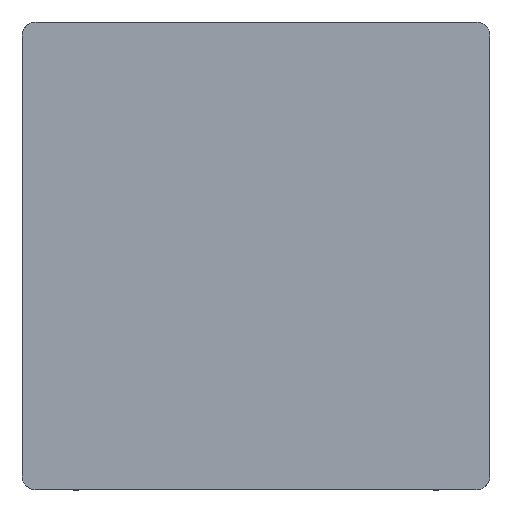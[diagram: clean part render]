
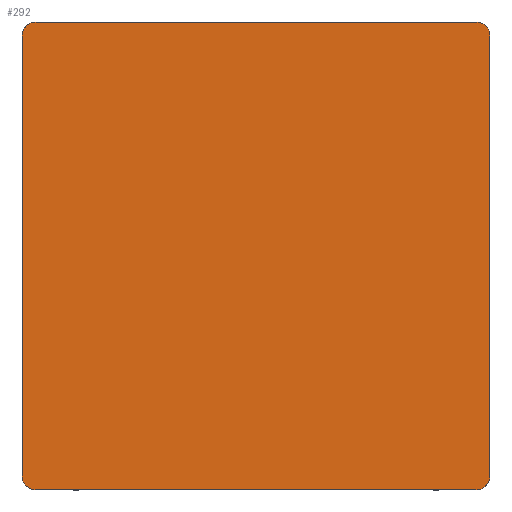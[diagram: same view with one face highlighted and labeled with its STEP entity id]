
A CAD part, top view. The second image highlights one B-rep face of the part: STEP entity #292.
In plain terms, the highlighted planar face has unit normal (0, 0, 1).
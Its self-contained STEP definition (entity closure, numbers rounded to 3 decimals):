
#292=ADVANCED_FACE($,(#522),#2910,.T.);
#522=FACE_OUTER_BOUND($,#776,.T.);
#776=EDGE_LOOP($,(#1796,#1797,#1798,#1799,#1800,#1801,#1802,#1803));
#1796=ORIENTED_EDGE($,*,*,#2347,.F.);
#1797=ORIENTED_EDGE($,*,*,#2338,.F.);
#1798=ORIENTED_EDGE($,*,*,#2346,.F.);
#1799=ORIENTED_EDGE($,*,*,#2337,.F.);
#1800=ORIENTED_EDGE($,*,*,#2345,.F.);
#1801=ORIENTED_EDGE($,*,*,#2336,.F.);
#1802=ORIENTED_EDGE($,*,*,#2344,.F.);
#1803=ORIENTED_EDGE($,*,*,#2339,.F.);
#2336=EDGE_CURVE($,#2677,#2676,#3274,.T.);
#2337=EDGE_CURVE($,#2679,#2678,#3275,.T.);
#2338=EDGE_CURVE($,#2681,#2680,#3276,.T.);
#2339=EDGE_CURVE($,#2683,#2682,#3277,.T.);
#2344=EDGE_CURVE($,#2682,#2677,#3426,.T.);
#2345=EDGE_CURVE($,#2676,#2679,#3427,.T.);
#2346=EDGE_CURVE($,#2678,#2681,#3428,.T.);
#2347=EDGE_CURVE($,#2680,#2683,#3429,.T.);
#2676=VERTEX_POINT($,#8886);
#2677=VERTEX_POINT($,#8887);
#2678=VERTEX_POINT($,#8888);
#2679=VERTEX_POINT($,#8889);
#2680=VERTEX_POINT($,#8890);
#2681=VERTEX_POINT($,#8891);
#2682=VERTEX_POINT($,#8892);
#2683=VERTEX_POINT($,#8893);
#2910=PLANE($,#3624);
#3274=B_SPLINE_CURVE_WITH_KNOTS($,1,(#8760,#8761),.UNSPECIFIED.,.F.,.F.,
(2,2),(30.,970.),.UNSPECIFIED.);
#3275=B_SPLINE_CURVE_WITH_KNOTS($,1,(#8762,#8763),.UNSPECIFIED.,.F.,.F.,
(2,2),(30.,970.),.UNSPECIFIED.);
#3276=B_SPLINE_CURVE_WITH_KNOTS($,1,(#8764,#8765),.UNSPECIFIED.,.F.,.F.,
(2,2),(30.,970.),.UNSPECIFIED.);
#3277=B_SPLINE_CURVE_WITH_KNOTS($,1,(#8766,#8767),.UNSPECIFIED.,.F.,.F.,
(2,2),(30.,970.),.UNSPECIFIED.);
#3426=(
BOUNDED_CURVE()
B_SPLINE_CURVE(2,(#8780,#8781,#8782),.UNSPECIFIED.,.F.,.F.)
B_SPLINE_CURVE_WITH_KNOTS((3,3),(-1.,0.),.UNSPECIFIED.)
CURVE()
GEOMETRIC_REPRESENTATION_ITEM()
RATIONAL_B_SPLINE_CURVE((1.,0.707,1.))
REPRESENTATION_ITEM($)
);
#3427=(
BOUNDED_CURVE()
B_SPLINE_CURVE(2,(#8783,#8784,#8785),.UNSPECIFIED.,.F.,.F.)
B_SPLINE_CURVE_WITH_KNOTS((3,3),(0.,1.),.UNSPECIFIED.)
CURVE()
GEOMETRIC_REPRESENTATION_ITEM()
RATIONAL_B_SPLINE_CURVE((1.,0.707,1.))
REPRESENTATION_ITEM($)
);
#3428=(
BOUNDED_CURVE()
B_SPLINE_CURVE(2,(#8786,#8787,#8788),.UNSPECIFIED.,.F.,.F.)
B_SPLINE_CURVE_WITH_KNOTS((3,3),(0.,1.),.UNSPECIFIED.)
CURVE()
GEOMETRIC_REPRESENTATION_ITEM()
RATIONAL_B_SPLINE_CURVE((1.,0.707,1.))
REPRESENTATION_ITEM($)
);
#3429=(
BOUNDED_CURVE()
B_SPLINE_CURVE(2,(#8789,#8790,#8791),.UNSPECIFIED.,.F.,.F.)
B_SPLINE_CURVE_WITH_KNOTS((3,3),(0.,1.),.UNSPECIFIED.)
CURVE()
GEOMETRIC_REPRESENTATION_ITEM()
RATIONAL_B_SPLINE_CURVE((1.,0.707,1.))
REPRESENTATION_ITEM($)
);
#3624=AXIS2_PLACEMENT_3D($,#8826,#3729,$);
#3729=DIRECTION($,(0.,0.,1.));
#8760=CARTESIAN_POINT($,(0.,30.,304.));
#8761=CARTESIAN_POINT($,(0.,970.,304.));
#8762=CARTESIAN_POINT($,(30.,1000.,304.));
#8763=CARTESIAN_POINT($,(970.,1000.,304.));
#8764=CARTESIAN_POINT($,(1000.,970.,304.));
#8765=CARTESIAN_POINT($,(1000.,30.,304.));
#8766=CARTESIAN_POINT($,(970.,0.,304.));
#8767=CARTESIAN_POINT($,(30.,0.,304.));
#8780=CARTESIAN_POINT($,(30.,0.,304.));
#8781=CARTESIAN_POINT($,(0.,0.,304.));
#8782=CARTESIAN_POINT($,(0.,30.,304.));
#8783=CARTESIAN_POINT($,(0.,970.,304.));
#8784=CARTESIAN_POINT($,(0.,1000.,304.));
#8785=CARTESIAN_POINT($,(30.,1000.,304.));
#8786=CARTESIAN_POINT($,(970.,1000.,304.));
#8787=CARTESIAN_POINT($,(1000.,1000.,304.));
#8788=CARTESIAN_POINT($,(1000.,970.,304.));
#8789=CARTESIAN_POINT($,(1000.,30.,304.));
#8790=CARTESIAN_POINT($,(1000.,0.,304.));
#8791=CARTESIAN_POINT($,(970.,0.,304.));
#8826=CARTESIAN_POINT($,(0.,0.,304.));
#8886=CARTESIAN_POINT($,(0.,970.,304.));
#8887=CARTESIAN_POINT($,(0.,30.,304.));
#8888=CARTESIAN_POINT($,(970.,1000.,304.));
#8889=CARTESIAN_POINT($,(30.,1000.,304.));
#8890=CARTESIAN_POINT($,(1000.,30.,304.));
#8891=CARTESIAN_POINT($,(1000.,970.,304.));
#8892=CARTESIAN_POINT($,(30.,0.,304.));
#8893=CARTESIAN_POINT($,(970.,0.,304.));
